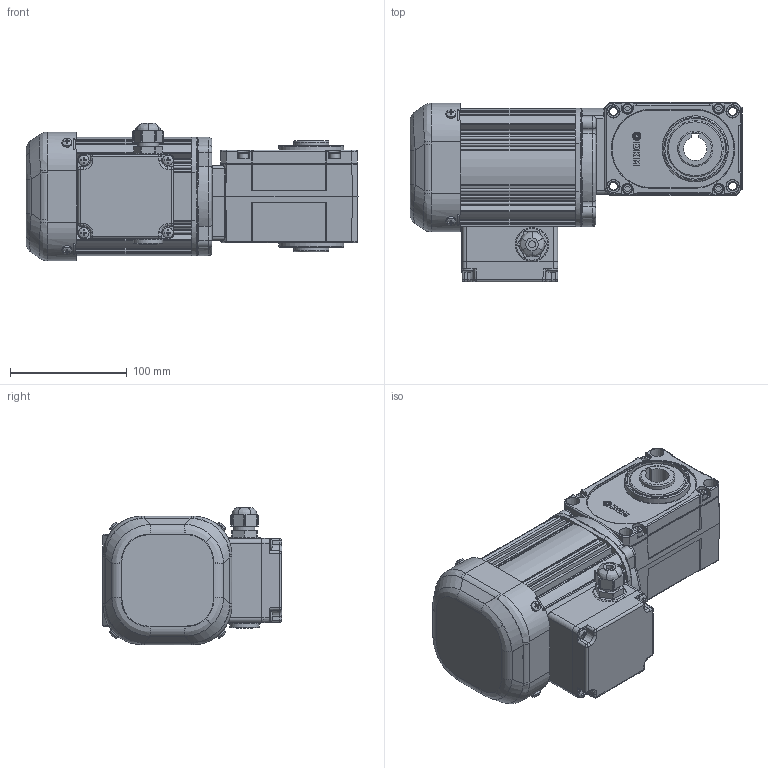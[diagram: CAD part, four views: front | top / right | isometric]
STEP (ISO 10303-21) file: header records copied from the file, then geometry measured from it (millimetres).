
FILE_DESCRIPTION (( 'STEP AP214' ), '1' );
FILE_NAME ('DSY20B-(7.5~30)N020-¤±.STEP', '2025-01-17T05:29:52', ( '' ), ( '' ), 'SwSTEP 2.0', 'SolidWorks 2024', '' );
FILE_SCHEMA (( 'AUTOMOTIVE_DESIGN' ));
Length unit declared in the file: millimetre
Products named in the file (14): COVER-DSY02S-DC 외형수정; DKM 0.2kW 뒤커버 가공도(20200128); DKM 단자대 상부수정도(20200120); dkm 0.2kW 팬커버; DSY02S 감속기; DSY20B-(7.5~30)N020-ㅁ; 단자박스 마개; 고무패킹-하; 0.2KW 모터; 프렉시블_표준; CASE-DSY02S-DC 외형수정; 단자박스 하 수정; 95 인발프레임 최종가공도(20200128); 단자박스 ASS''Y
Assembly tree (13 placements, depth 3):
  DSY20B-(7.5~30)N020-ㅁ
    DSY02S 감속기
      CASE-DSY02S-DC 외형수정
      COVER-DSY02S-DC 외형수정
    단자박스 ASS''Y
      단자박스 하 수정
      프렉시블_표준
      단자박스 마개
      DKM 단자대 상부수정도(20200120)
      고무패킹-하
    0.2KW 모터
      95 인발프레임 최종가공도(20200128)
      DKM 0.2kW 뒤커버 가공도(20200128)
      dkm 0.2kW 팬커버
Bounding box: 284 x 153.75 x 117.56 mm (x, y, z)
Volume: 2121950.5 mm3; surface area: 317364.9 mm2
Topology: 10 solids, 16 shells, 1504 faces, 3797 edges, 2372 vertices
Faces by surface type: plane 670, cylinder 493, bspline 208, torus 85, cone 28, sphere 20
Full cylindrical faces by diameter (mm): 2.514 x2, 3.318 x2, 3.5 x4, 4.5 x4, 5 x8, 5.3 x8, 6 x1, 6.7 x4, 8 x8, 8.5 x8, 9 x4, 10.8 x1, 11 x4, 16.5 x1, 18 x2, 19 x1, 20 x3, 22 x1, 25 x1, 28 x1, 30 x3, 46.111 x1, 48 x2, 52 x2
Entity records: 52580 total; most frequent: CARTESIAN_POINT 17952, ORIENTED_EDGE 7208, DIRECTION 6815, EDGE_CURVE 3604, AXIS2_PLACEMENT_3D 2436, VERTEX_POINT 2340, LINE 1943, VECTOR 1943
